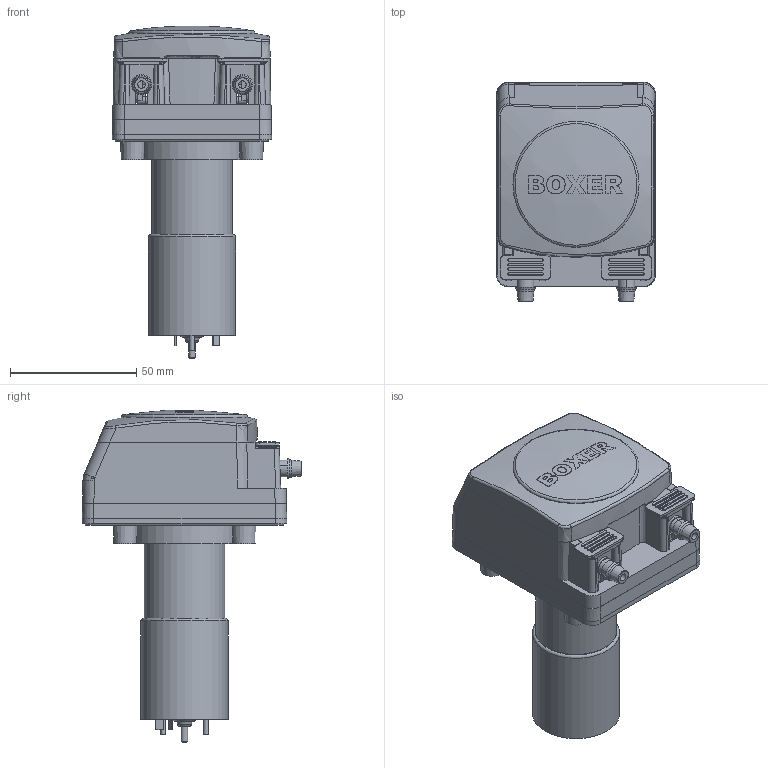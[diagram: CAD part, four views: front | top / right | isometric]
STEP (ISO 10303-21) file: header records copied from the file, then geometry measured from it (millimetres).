
FILE_DESCRIPTION (( 'STEP AP203' ), '1' );
FILE_NAME ('SOLID_15KU_Gear80.STEP', '2023-03-08T10:21:03', ( '' ), ( '' ), 'SwSTEP 2.0', 'SolidWorks 2021', '' );
FILE_SCHEMA (( 'CONFIG_CONTROL_DESIGN' ));
Products named in the file (1): SOLID_15KU_Gear80
Bounding box: 63.11 x 87.06 x 131.65 mm (x, y, z)
Volume: 152138 mm3; surface area: 80305.6 mm2
Topology: 15 solids, 15 shells, 1760 faces, 4321 edges, 2635 vertices
Faces by surface type: plane 707, cone 395, cylinder 355, bspline 167, torus 85, sphere 51
Full cylindrical faces by diameter (mm): 1 x2, 1.9 x2, 2 x6, 2.5 x4, 3 x73, 3.3 x4, 3.5 x1, 5 x1, 5.087 x4, 5.5 x4, 6 x1, 11 x1, 32 x1, 33.3 x1, 34.5 x1, 50 x1
Entity records: 57786 total; most frequent: CARTESIAN_POINT 19559, ORIENTED_EDGE 7876, DIRECTION 7605, EDGE_CURVE 3938, AXIS2_PLACEMENT_3D 2981, VERTEX_POINT 2584, EDGE_LOOP 2208, FACE_OUTER_BOUND 1887
